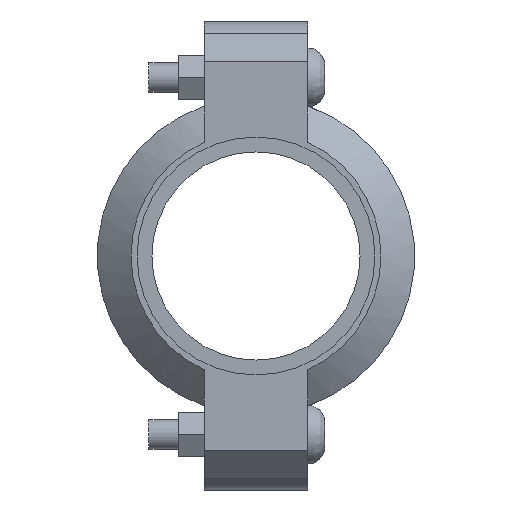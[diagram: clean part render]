
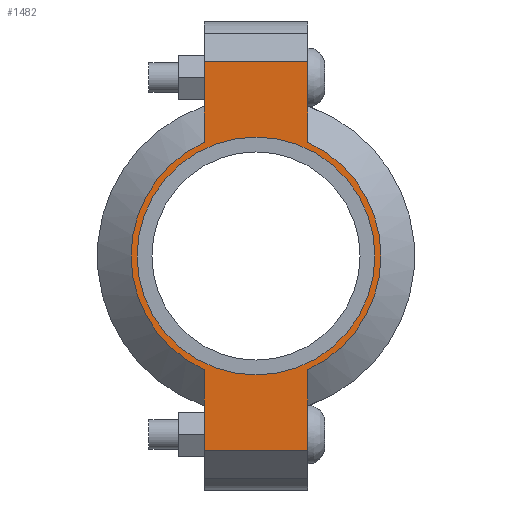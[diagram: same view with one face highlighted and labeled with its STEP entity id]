
A CAD part, left-side view. The second image highlights one B-rep face of the part: STEP entity #1482.
In plain terms, the highlighted planar face has unit normal (-1, 0, 0) as drawn and (0, 0, 1) by its records, which use the part's own axes.
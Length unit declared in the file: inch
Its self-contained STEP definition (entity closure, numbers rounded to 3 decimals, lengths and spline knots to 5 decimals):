
#144=LINE('',#2585,#237);
#157=LINE('',#2629,#250);
#162=LINE('',#2653,#255);
#169=LINE('',#2671,#262);
#176=LINE('',#2696,#269);
#177=LINE('',#2699,#270);
#237=VECTOR('',#2069,0.3937);
#250=VECTOR('',#2098,0.3937);
#255=VECTOR('',#2109,0.3937);
#262=VECTOR('',#2126,0.3937);
#269=VECTOR('',#2147,0.3937);
#270=VECTOR('',#2152,0.3937);
#318=FACE_BOUND('',#478,.T.);
#383=FACE_OUTER_BOUND('',#477,.T.);
#477=EDGE_LOOP('',(#1231,#1232,#1233,#1234,#1235,#1236,#1237,#1238));
#478=EDGE_LOOP('',(#1239));
#574=CIRCLE('',#1745,1.575);
#575=CIRCLE('',#1746,1.575);
#576=CIRCLE('',#1747,1.5);
#677=VERTEX_POINT('',#2580);
#678=VERTEX_POINT('',#2584);
#694=VERTEX_POINT('',#2626);
#695=VERTEX_POINT('',#2628);
#701=VERTEX_POINT('',#2648);
#702=VERTEX_POINT('',#2652);
#707=VERTEX_POINT('',#2668);
#708=VERTEX_POINT('',#2670);
#714=VERTEX_POINT('',#2701);
#844=EDGE_CURVE('',#678,#677,#144,.T.);
#864=EDGE_CURVE('',#695,#694,#157,.T.);
#873=EDGE_CURVE('',#702,#701,#162,.T.);
#882=EDGE_CURVE('',#708,#707,#169,.T.);
#894=EDGE_CURVE('',#702,#694,#176,.T.);
#895=EDGE_CURVE('',#701,#708,#574,.T.);
#896=EDGE_CURVE('',#678,#707,#177,.T.);
#897=EDGE_CURVE('',#677,#695,#575,.T.);
#898=EDGE_CURVE('',#714,#714,#576,.T.);
#1231=ORIENTED_EDGE('',*,*,#894,.F.);
#1232=ORIENTED_EDGE('',*,*,#873,.T.);
#1233=ORIENTED_EDGE('',*,*,#895,.T.);
#1234=ORIENTED_EDGE('',*,*,#882,.T.);
#1235=ORIENTED_EDGE('',*,*,#896,.F.);
#1236=ORIENTED_EDGE('',*,*,#844,.T.);
#1237=ORIENTED_EDGE('',*,*,#897,.T.);
#1238=ORIENTED_EDGE('',*,*,#864,.T.);
#1239=ORIENTED_EDGE('',*,*,#898,.T.);
#1335=PLANE('',#1744);
#1482=ADVANCED_FACE('',(#383,#318),#1335,.T.);
#1744=AXIS2_PLACEMENT_3D('',#2697,#2148,#2149);
#1745=AXIS2_PLACEMENT_3D('',#2698,#2150,#2151);
#1746=AXIS2_PLACEMENT_3D('',#2700,#2153,#2154);
#1747=AXIS2_PLACEMENT_3D('',#2702,#2155,#2156);
#2069=DIRECTION('',(1.,0.,0.));
#2098=DIRECTION('',(1.,0.,0.));
#2109=DIRECTION('',(-1.,0.,0.));
#2126=DIRECTION('',(-1.,0.,0.));
#2147=DIRECTION('',(0.,-1.,0.));
#2148=DIRECTION('center_axis',(0.,0.,1.));
#2149=DIRECTION('ref_axis',(-1.,0.,0.));
#2150=DIRECTION('center_axis',(0.,0.,1.));
#2151=DIRECTION('ref_axis',(1.,0.,0.));
#2152=DIRECTION('',(0.,1.,0.));
#2153=DIRECTION('center_axis',(0.,0.,1.));
#2154=DIRECTION('ref_axis',(1.,0.,0.));
#2155=DIRECTION('center_axis',(0.,0.,-1.));
#2156=DIRECTION('ref_axis',(1.,0.,0.));
#2580=CARTESIAN_POINT('',(-1.43462,-0.65,0.94));
#2584=CARTESIAN_POINT('',(-2.45,-0.65,0.94));
#2585=CARTESIAN_POINT('',(2.95,-0.65,0.94));
#2626=CARTESIAN_POINT('',(2.45,-0.65,0.94));
#2628=CARTESIAN_POINT('',(1.43462,-0.65,0.94));
#2629=CARTESIAN_POINT('',(2.95,-0.65,0.94));
#2648=CARTESIAN_POINT('',(1.43462,0.65,0.94));
#2652=CARTESIAN_POINT('',(2.45,0.65,0.94));
#2653=CARTESIAN_POINT('',(-2.95,0.65,0.94));
#2668=CARTESIAN_POINT('',(-2.45,0.65,0.94));
#2670=CARTESIAN_POINT('',(-1.43462,0.65,0.94));
#2671=CARTESIAN_POINT('',(-2.95,0.65,0.94));
#2696=CARTESIAN_POINT('',(2.45,-0.325,0.94));
#2697=CARTESIAN_POINT('Origin',(0.,0.,
0.94));
#2698=CARTESIAN_POINT('Origin',(0.,0.,0.94));
#2699=CARTESIAN_POINT('',(-2.45,0.325,0.94));
#2700=CARTESIAN_POINT('Origin',(0.,0.,0.94));
#2701=CARTESIAN_POINT('',(-1.5,0.,0.94));
#2702=CARTESIAN_POINT('Origin',(0.,0.,0.94));
